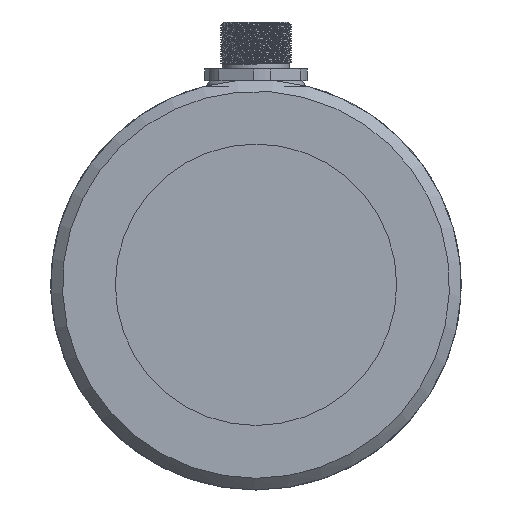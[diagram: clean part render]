
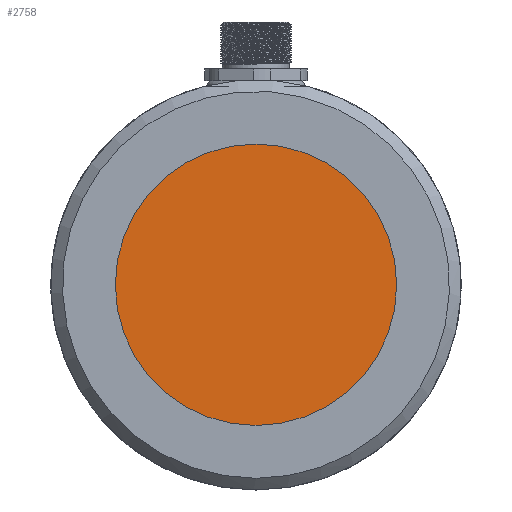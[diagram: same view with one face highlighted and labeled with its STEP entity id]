
A CAD part, left-side view. The second image highlights one B-rep face of the part: STEP entity #2758.
In plain terms, the highlighted planar face has unit normal (-1, 0, 0).
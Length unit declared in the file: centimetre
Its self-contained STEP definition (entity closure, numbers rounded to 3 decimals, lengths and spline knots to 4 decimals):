
#802=CIRCLE('',#2928,2.4);
#887=VERTEX_POINT('',#3595);
#1331=EDGE_CURVE('',#887,#887,#802,.T.);
#1673=ORIENTED_EDGE('',*,*,#1331,.T.);
#2340=EDGE_LOOP('',(#1673));
#2550=FACE_BOUND('',#2340,.T.);
#2758=ADVANCED_FACE('',(#2550),#16061,.T.);
#2928=AXIS2_PLACEMENT_3D('',#3594,#3140,#3141);
#2930=AXIS2_PLACEMENT_3D('',#3598,#3144,$);
#3140=DIRECTION('',(-1.,0.,0.));
#3141=DIRECTION('',(0.,0.,2.4));
#3144=DIRECTION('',(-1.,0.,0.));
#3594=CARTESIAN_POINT('',(0.1,0.,0.));
#3595=CARTESIAN_POINT('',(0.1,0.,2.4));
#3598=CARTESIAN_POINT('',(0.1,0.,0.));
#16061=PLANE('',#2930);
